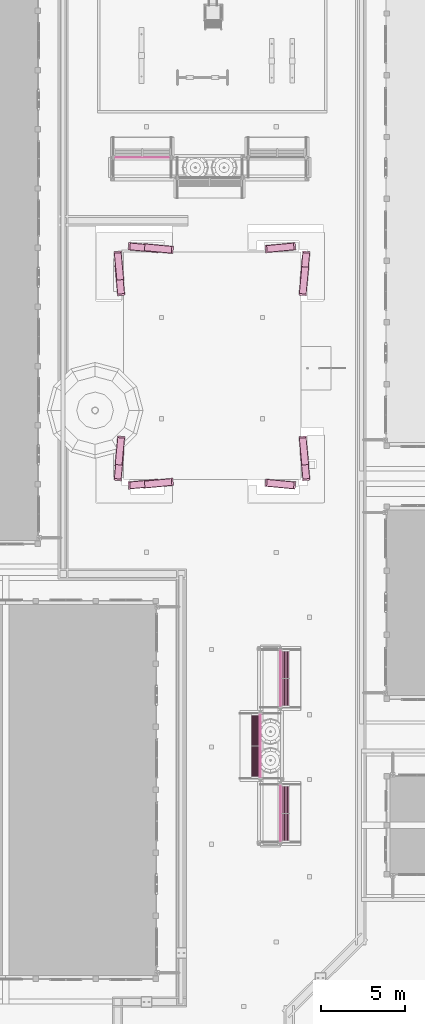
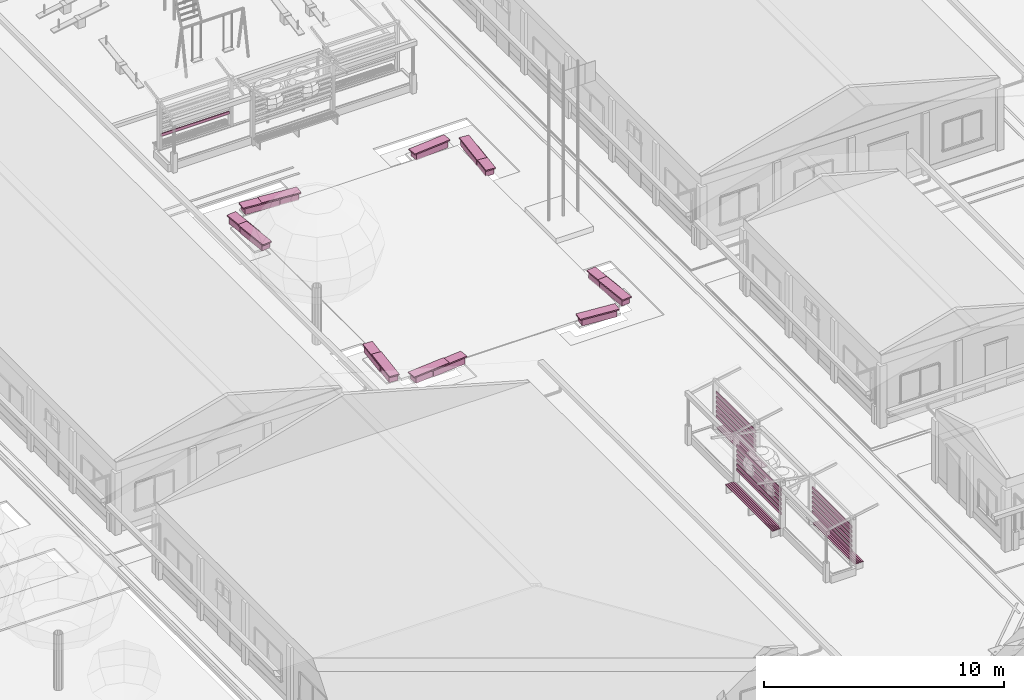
# One storey, part 143 of 177: 62 furnishings.
"""IFC4 building model written with IfcOpenShell, lengths in metres."""

from ifc_helpers import new_model, si_unit, origin, origin_with_axes, place, context, subcontext, project, spatial, triangles, element, save


model = new_model("IFC4")

# Units and contexts
model_context = context("Model", 3, precision=1e-05, world=origin_with_axes())
body_context = subcontext(model_context, "Body", "Model", "MODEL_VIEW")
ifc_project = project(units=[si_unit("LENGTHUNIT", "METRE"), si_unit("AREAUNIT", "SQUARE_METRE"), si_unit("VOLUMEUNIT", "CUBIC_METRE"), si_unit("PLANEANGLEUNIT", "RADIAN")], contexts=[model_context])

# Site, building, storey
site_placement = place(None, origin_with_axes())
site = spatial("IfcSite", under=ifc_project, at=site_placement, Name="Predio Los Mangos - Morales, San Martín", CompositionType="ELEMENT")
building_placement = place(site_placement, origin())
building = spatial("IfcBuilding", under=site, at=building_placement, Name="Hogar de Refugio Temporal", CompositionType="ELEMENT")
storey_placement = place(building_placement, origin())
storey = spatial("IfcBuildingStorey", under=building, at=storey_placement, Name="NIVEL 1 (NPT +0.00)", CompositionType="ELEMENT", Elevation=0.0)

# Furnishings
furnishing_1_placement = place(storey_placement, origin())
element("IfcFurnishingElement", 1, at=furnishing_1_placement, inside=storey, Name="banca_base", ObjectType="Mobiliario exterior / juegos", context=body_context, shape_type="Tessellation", body=[
    triangles([(29.1456, 69.3176, 0.07), (29.2962, 67.7247, 0.07), (29.6944, 67.7624, 0.07), (29.5438, 69.3553, 0.07), (29.1456, 69.3176, 0.37), (29.2962, 67.7247, 0.37), (29.6944, 67.7624, 0.37), (29.5438, 69.3553, 0.37)], [[1, 4, 3], [1, 3, 2], [5, 6, 7], [5, 7, 8], [1, 2, 6], [1, 6, 5], [2, 3, 7], [2, 7, 6], [3, 4, 8], [3, 8, 7], [4, 1, 5], [4, 5, 8]]),
])
furnishing_2_placement = place(storey_placement, origin())
element("IfcFurnishingElement", 2, at=furnishing_2_placement, inside=storey, Name="banca_asiento", ObjectType="Mobiliario exterior / juegos", context=body_context, shape_type="Tessellation", body=[
    triangles([(29.1113, 69.4148, 0.39), (29.2807, 67.6228, 0.39), (29.7287, 67.6652, 0.39), (29.5593, 69.4572, 0.39), (29.1113, 69.4148, 0.45), (29.2807, 67.6228, 0.45), (29.7287, 67.6652, 0.45), (29.5593, 69.4572, 0.45)], [[1, 4, 3], [1, 3, 2], [5, 6, 7], [5, 7, 8], [1, 2, 6], [1, 6, 5], [2, 3, 7], [2, 7, 6], [3, 4, 8], [3, 8, 7], [4, 1, 5], [4, 5, 8]]),
])
furnishing_3_placement = place(storey_placement, origin())
element("IfcFurnishingElement", 3, at=furnishing_3_placement, inside=storey, Name="banca_base", ObjectType="Mobiliario exterior / juegos", context=body_context, shape_type="Tessellation", body=[
    triangles([(31.6853, 69.7738, 0.07), (30.0924, 69.9244, 0.07), (30.0547, 69.5262, 0.07), (31.6476, 69.3756, 0.07), (31.6853, 69.7738, 0.37), (30.0924, 69.9244, 0.37), (30.0547, 69.5262, 0.37), (31.6476, 69.3756, 0.37)], [[1, 4, 3], [1, 3, 2], [5, 6, 7], [5, 7, 8], [1, 2, 6], [1, 6, 5], [2, 3, 7], [2, 7, 6], [3, 4, 8], [3, 8, 7], [4, 1, 5], [4, 5, 8]]),
])
furnishing_4_placement = place(storey_placement, origin())
element("IfcFurnishingElement", 4, at=furnishing_4_placement, inside=storey, Name="banca_asiento", ObjectType="Mobiliario exterior / juegos", context=body_context, shape_type="Tessellation", body=[
    triangles([(31.7872, 69.7893, 0.39), (29.9952, 69.9587, 0.39), (29.9528, 69.5107, 0.39), (31.7448, 69.3413, 0.39), (31.7872, 69.7893, 0.45), (29.9952, 69.9587, 0.45), (29.9528, 69.5107, 0.45), (31.7448, 69.3413, 0.45)], [[1, 4, 3], [1, 3, 2], [5, 6, 7], [5, 7, 8], [1, 2, 6], [1, 6, 5], [2, 3, 7], [2, 7, 6], [3, 4, 8], [3, 8, 7], [4, 1, 5], [4, 5, 8]]),
])
furnishing_5_placement = place(storey_placement, origin())
element("IfcFurnishingElement", 5, at=furnishing_5_placement, inside=storey, Name="banca_base", ObjectType="Mobiliario exterior / juegos", context=body_context, shape_type="Tessellation", body=[
    triangles([(40.5738, 67.7247, 0.07), (40.7244, 69.3176, 0.07), (40.3262, 69.3553, 0.07), (40.1756, 67.7624, 0.07), (40.5738, 67.7247, 0.37), (40.7244, 69.3176, 0.37), (40.3262, 69.3553, 0.37), (40.1756, 67.7624, 0.37)], [[1, 4, 3], [1, 3, 2], [5, 6, 7], [5, 7, 8], [1, 2, 6], [1, 6, 5], [2, 3, 7], [2, 7, 6], [3, 4, 8], [3, 8, 7], [4, 1, 5], [4, 5, 8]]),
])
furnishing_6_placement = place(storey_placement, origin())
element("IfcFurnishingElement", 6, at=furnishing_6_placement, inside=storey, Name="banca_asiento", ObjectType="Mobiliario exterior / juegos", context=body_context, shape_type="Tessellation", body=[
    triangles([(40.5893, 67.6228, 0.39), (40.7587, 69.4148, 0.39), (40.3107, 69.4572, 0.39), (40.1413, 67.6652, 0.39), (40.5893, 67.6228, 0.45), (40.7587, 69.4148, 0.45), (40.3107, 69.4572, 0.45), (40.1413, 67.6652, 0.45)], [[1, 4, 3], [1, 3, 2], [5, 6, 7], [5, 7, 8], [1, 2, 6], [1, 6, 5], [2, 3, 7], [2, 7, 6], [3, 4, 8], [3, 8, 7], [4, 1, 5], [4, 5, 8]]),
])
furnishing_7_placement = place(storey_placement, origin())
element("IfcFurnishingElement", 7, at=furnishing_7_placement, inside=storey, Name="banca_base", ObjectType="Mobiliario exterior / juegos", context=body_context, shape_type="Tessellation", body=[
    triangles([(39.7676, 69.9244, 0.07), (38.1747, 69.7738, 0.07), (38.2124, 69.3756, 0.07), (39.8053, 69.5262, 0.07), (39.7676, 69.9244, 0.37), (38.1747, 69.7738, 0.37), (38.2124, 69.3756, 0.37), (39.8053, 69.5262, 0.37)], [[1, 4, 3], [1, 3, 2], [5, 6, 7], [5, 7, 8], [1, 2, 6], [1, 6, 5], [2, 3, 7], [2, 7, 6], [3, 4, 8], [3, 8, 7], [4, 1, 5], [4, 5, 8]]),
])
furnishing_8_placement = place(storey_placement, origin())
element("IfcFurnishingElement", 8, at=furnishing_8_placement, inside=storey, Name="banca_asiento", ObjectType="Mobiliario exterior / juegos", context=body_context, shape_type="Tessellation", body=[
    triangles([(39.8648, 69.9587, 0.39), (38.0728, 69.7893, 0.39), (38.1152, 69.3413, 0.39), (39.9072, 69.5107, 0.39), (39.8648, 69.9587, 0.45), (38.0728, 69.7893, 0.45), (38.1152, 69.3413, 0.45), (39.9072, 69.5107, 0.45)], [[1, 4, 3], [1, 3, 2], [5, 6, 7], [5, 7, 8], [1, 2, 6], [1, 6, 5], [2, 3, 7], [2, 7, 6], [3, 4, 8], [3, 8, 7], [4, 1, 5], [4, 5, 8]]),
])
furnishing_9_placement = place(storey_placement, origin())
element("IfcFurnishingElement", 9, at=furnishing_9_placement, inside=storey, Name="banca_base", ObjectType="Mobiliario exterior / juegos", context=body_context, shape_type="Tessellation", body=[
    triangles([(29.2962, 57.5553, 0.07), (29.1456, 55.9624, 0.07), (29.5438, 55.9247, 0.07), (29.6944, 57.5176, 0.07), (29.2962, 57.5553, 0.37), (29.1456, 55.9624, 0.37), (29.5438, 55.9247, 0.37), (29.6944, 57.5176, 0.37)], [[1, 4, 3], [1, 3, 2], [5, 6, 7], [5, 7, 8], [1, 2, 6], [1, 6, 5], [2, 3, 7], [2, 7, 6], [3, 4, 8], [3, 8, 7], [4, 1, 5], [4, 5, 8]]),
])
furnishing_10_placement = place(storey_placement, origin())
element("IfcFurnishingElement", 10, at=furnishing_10_placement, inside=storey, Name="banca_asiento", ObjectType="Mobiliario exterior / juegos", context=body_context, shape_type="Tessellation", body=[
    triangles([(29.2807, 57.6572, 0.39), (29.1113, 55.8652, 0.39), (29.5593, 55.8228, 0.39), (29.7287, 57.6148, 0.39), (29.2807, 57.6572, 0.45), (29.1113, 55.8652, 0.45), (29.5593, 55.8228, 0.45), (29.7287, 57.6148, 0.45)], [[1, 4, 3], [1, 3, 2], [5, 6, 7], [5, 7, 8], [1, 2, 6], [1, 6, 5], [2, 3, 7], [2, 7, 6], [3, 4, 8], [3, 8, 7], [4, 1, 5], [4, 5, 8]]),
])
furnishing_11_placement = place(storey_placement, origin())
element("IfcFurnishingElement", 11, at=furnishing_11_placement, inside=storey, Name="banca_base", ObjectType="Mobiliario exterior / juegos", context=body_context, shape_type="Tessellation", body=[
    triangles([(30.0924, 55.3556, 0.07), (31.6853, 55.5062, 0.07), (31.6476, 55.9044, 0.07), (30.0547, 55.7538, 0.07), (30.0924, 55.3556, 0.37), (31.6853, 55.5062, 0.37), (31.6476, 55.9044, 0.37), (30.0547, 55.7538, 0.37)], [[1, 4, 3], [1, 3, 2], [5, 6, 7], [5, 7, 8], [1, 2, 6], [1, 6, 5], [2, 3, 7], [2, 7, 6], [3, 4, 8], [3, 8, 7], [4, 1, 5], [4, 5, 8]]),
])
furnishing_12_placement = place(storey_placement, origin())
element("IfcFurnishingElement", 12, at=furnishing_12_placement, inside=storey, Name="banca_asiento", ObjectType="Mobiliario exterior / juegos", context=body_context, shape_type="Tessellation", body=[
    triangles([(29.9952, 55.3213, 0.39), (31.7872, 55.4907, 0.39), (31.7448, 55.9387, 0.39), (29.9528, 55.7693, 0.39), (29.9952, 55.3213, 0.45), (31.7872, 55.4907, 0.45), (31.7448, 55.9387, 0.45), (29.9528, 55.7693, 0.45)], [[1, 4, 3], [1, 3, 2], [5, 6, 7], [5, 7, 8], [1, 2, 6], [1, 6, 5], [2, 3, 7], [2, 7, 6], [3, 4, 8], [3, 8, 7], [4, 1, 5], [4, 5, 8]]),
])
furnishing_13_placement = place(storey_placement, origin())
element("IfcFurnishingElement", 13, at=furnishing_13_placement, inside=storey, Name="banca_base", ObjectType="Mobiliario exterior / juegos", context=body_context, shape_type="Tessellation", body=[
    triangles([(40.7244, 55.9624, 0.07), (40.5738, 57.5553, 0.07), (40.1756, 57.5176, 0.07), (40.3262, 55.9247, 0.07), (40.7244, 55.9624, 0.37), (40.5738, 57.5553, 0.37), (40.1756, 57.5176, 0.37), (40.3262, 55.9247, 0.37)], [[1, 4, 3], [1, 3, 2], [5, 6, 7], [5, 7, 8], [1, 2, 6], [1, 6, 5], [2, 3, 7], [2, 7, 6], [3, 4, 8], [3, 8, 7], [4, 1, 5], [4, 5, 8]]),
])
furnishing_14_placement = place(storey_placement, origin())
element("IfcFurnishingElement", 14, at=furnishing_14_placement, inside=storey, Name="banca_asiento", ObjectType="Mobiliario exterior / juegos", context=body_context, shape_type="Tessellation", body=[
    triangles([(40.7587, 55.8652, 0.39), (40.5893, 57.6572, 0.39), (40.1413, 57.6148, 0.39), (40.3107, 55.8228, 0.39), (40.7587, 55.8652, 0.45), (40.5893, 57.6572, 0.45), (40.1413, 57.6148, 0.45), (40.3107, 55.8228, 0.45)], [[1, 4, 3], [1, 3, 2], [5, 6, 7], [5, 7, 8], [1, 2, 6], [1, 6, 5], [2, 3, 7], [2, 7, 6], [3, 4, 8], [3, 8, 7], [4, 1, 5], [4, 5, 8]]),
])
furnishing_15_placement = place(storey_placement, origin())
element("IfcFurnishingElement", 15, at=furnishing_15_placement, inside=storey, Name="banca_base", ObjectType="Mobiliario exterior / juegos", context=body_context, shape_type="Tessellation", body=[
    triangles([(38.1747, 55.5062, 0.07), (39.7676, 55.3556, 0.07), (39.8053, 55.7538, 0.07), (38.2124, 55.9044, 0.07), (38.1747, 55.5062, 0.37), (39.7676, 55.3556, 0.37), (39.8053, 55.7538, 0.37), (38.2124, 55.9044, 0.37)], [[1, 4, 3], [1, 3, 2], [5, 6, 7], [5, 7, 8], [1, 2, 6], [1, 6, 5], [2, 3, 7], [2, 7, 6], [3, 4, 8], [3, 8, 7], [4, 1, 5], [4, 5, 8]]),
])
furnishing_16_placement = place(storey_placement, origin())
element("IfcFurnishingElement", 16, at=furnishing_16_placement, inside=storey, Name="banca_asiento", ObjectType="Mobiliario exterior / juegos", context=body_context, shape_type="Tessellation", body=[
    triangles([(38.0728, 55.4907, 0.39), (39.8648, 55.3213, 0.39), (39.9072, 55.7693, 0.39), (38.1152, 55.9387, 0.39), (38.0728, 55.4907, 0.45), (39.8648, 55.3213, 0.45), (39.9072, 55.7693, 0.45), (38.1152, 55.9387, 0.45)], [[1, 4, 3], [1, 3, 2], [5, 6, 7], [5, 7, 8], [1, 2, 6], [1, 6, 5], [2, 3, 7], [2, 7, 6], [3, 4, 8], [3, 8, 7], [4, 1, 5], [4, 5, 8]]),
])
furnishing_17_placement = place(storey_placement, origin())
element("IfcFurnishingElement", 17, at=furnishing_17_placement, inside=storey, Name="banca_base", ObjectType="Mobiliario exterior / juegos", context=body_context, shape_type="Tessellation", body=[
    triangles([(29.1956, 68.4876, 0.07), (29.3462, 66.8947, 0.07), (29.7444, 66.9324, 0.07), (29.5938, 68.5253, 0.07), (29.1956, 68.4876, 0.37), (29.3462, 66.8947, 0.37), (29.7444, 66.9324, 0.37), (29.5938, 68.5253, 0.37)], [[1, 4, 3], [1, 3, 2], [5, 6, 7], [5, 7, 8], [1, 2, 6], [1, 6, 5], [2, 3, 7], [2, 7, 6], [3, 4, 8], [3, 8, 7], [4, 1, 5], [4, 5, 8]]),
])
furnishing_18_placement = place(storey_placement, origin())
element("IfcFurnishingElement", 18, at=furnishing_18_placement, inside=storey, Name="banca_asiento", ObjectType="Mobiliario exterior / juegos", context=body_context, shape_type="Tessellation", body=[
    triangles([(29.1613, 68.5848, 0.39), (29.3307, 66.7928, 0.39), (29.7787, 66.8352, 0.39), (29.6093, 68.6272, 0.39), (29.1613, 68.5848, 0.45), (29.3307, 66.7928, 0.45), (29.7787, 66.8352, 0.45), (29.6093, 68.6272, 0.45)], [[1, 4, 3], [1, 3, 2], [5, 6, 7], [5, 7, 8], [1, 2, 6], [1, 6, 5], [2, 3, 7], [2, 7, 6], [3, 4, 8], [3, 8, 7], [4, 1, 5], [4, 5, 8]]),
])
furnishing_19_placement = place(storey_placement, origin())
element("IfcFurnishingElement", 19, at=furnishing_19_placement, inside=storey, Name="banca_base", ObjectType="Mobiliario exterior / juegos", context=body_context, shape_type="Tessellation", body=[
    triangles([(32.5553, 69.7238, 0.07), (30.9624, 69.8744, 0.07), (30.9247, 69.4762, 0.07), (32.5176, 69.3256, 0.07), (32.5553, 69.7238, 0.37), (30.9624, 69.8744, 0.37), (30.9247, 69.4762, 0.37), (32.5176, 69.3256, 0.37)], [[1, 4, 3], [1, 3, 2], [5, 6, 7], [5, 7, 8], [1, 2, 6], [1, 6, 5], [2, 3, 7], [2, 7, 6], [3, 4, 8], [3, 8, 7], [4, 1, 5], [4, 5, 8]]),
])
furnishing_20_placement = place(storey_placement, origin())
element("IfcFurnishingElement", 20, at=furnishing_20_placement, inside=storey, Name="banca_asiento", ObjectType="Mobiliario exterior / juegos", context=body_context, shape_type="Tessellation", body=[
    triangles([(32.6572, 69.7393, 0.39), (30.8652, 69.9087, 0.39), (30.8228, 69.4607, 0.39), (32.6148, 69.2913, 0.39), (32.6572, 69.7393, 0.45), (30.8652, 69.9087, 0.45), (30.8228, 69.4607, 0.45), (32.6148, 69.2913, 0.45)], [[1, 4, 3], [1, 3, 2], [5, 6, 7], [5, 7, 8], [1, 2, 6], [1, 6, 5], [2, 3, 7], [2, 7, 6], [3, 4, 8], [3, 8, 7], [4, 1, 5], [4, 5, 8]]),
])
furnishing_21_placement = place(storey_placement, origin())
element("IfcFurnishingElement", 21, at=furnishing_21_placement, inside=storey, Name="banca_base", ObjectType="Mobiliario exterior / juegos", context=body_context, shape_type="Tessellation", body=[
    triangles([(40.5138, 66.8947, 0.07), (40.6644, 68.4876, 0.07), (40.2662, 68.5253, 0.07), (40.1156, 66.9324, 0.07), (40.5138, 66.8947, 0.37), (40.6644, 68.4876, 0.37), (40.2662, 68.5253, 0.37), (40.1156, 66.9324, 0.37)], [[1, 4, 3], [1, 3, 2], [5, 6, 7], [5, 7, 8], [1, 2, 6], [1, 6, 5], [2, 3, 7], [2, 7, 6], [3, 4, 8], [3, 8, 7], [4, 1, 5], [4, 5, 8]]),
])
furnishing_22_placement = place(storey_placement, origin())
element("IfcFurnishingElement", 22, at=furnishing_22_placement, inside=storey, Name="banca_asiento", ObjectType="Mobiliario exterior / juegos", context=body_context, shape_type="Tessellation", body=[
    triangles([(40.5293, 66.7928, 0.39), (40.6987, 68.5848, 0.39), (40.2507, 68.6272, 0.39), (40.0813, 66.8352, 0.39), (40.5293, 66.7928, 0.45), (40.6987, 68.5848, 0.45), (40.2507, 68.6272, 0.45), (40.0813, 66.8352, 0.45)], [[1, 4, 3], [1, 3, 2], [5, 6, 7], [5, 7, 8], [1, 2, 6], [1, 6, 5], [2, 3, 7], [2, 7, 6], [3, 4, 8], [3, 8, 7], [4, 1, 5], [4, 5, 8]]),
])
furnishing_23_placement = place(storey_placement, origin())
element("IfcFurnishingElement", 23, at=furnishing_23_placement, inside=storey, Name="banca_base", ObjectType="Mobiliario exterior / juegos", context=body_context, shape_type="Tessellation", body=[
    triangles([(29.3462, 58.3853, 0.07), (29.1956, 56.7924, 0.07), (29.5938, 56.7547, 0.07), (29.7444, 58.3476, 0.07), (29.3462, 58.3853, 0.37), (29.1956, 56.7924, 0.37), (29.5938, 56.7547, 0.37), (29.7444, 58.3476, 0.37)], [[1, 4, 3], [1, 3, 2], [5, 6, 7], [5, 7, 8], [1, 2, 6], [1, 6, 5], [2, 3, 7], [2, 7, 6], [3, 4, 8], [3, 8, 7], [4, 1, 5], [4, 5, 8]]),
])
furnishing_24_placement = place(storey_placement, origin())
element("IfcFurnishingElement", 24, at=furnishing_24_placement, inside=storey, Name="banca_asiento", ObjectType="Mobiliario exterior / juegos", context=body_context, shape_type="Tessellation", body=[
    triangles([(29.3307, 58.4872, 0.39), (29.1613, 56.6952, 0.39), (29.6093, 56.6528, 0.39), (29.7787, 58.4448, 0.39), (29.3307, 58.4872, 0.45), (29.1613, 56.6952, 0.45), (29.6093, 56.6528, 0.45), (29.7787, 58.4448, 0.45)], [[1, 4, 3], [1, 3, 2], [5, 6, 7], [5, 7, 8], [1, 2, 6], [1, 6, 5], [2, 3, 7], [2, 7, 6], [3, 4, 8], [3, 8, 7], [4, 1, 5], [4, 5, 8]]),
])
furnishing_25_placement = place(storey_placement, origin())
element("IfcFurnishingElement", 25, at=furnishing_25_placement, inside=storey, Name="banca_base", ObjectType="Mobiliario exterior / juegos", context=body_context, shape_type="Tessellation", body=[
    triangles([(30.9624, 55.4056, 0.07), (32.5553, 55.5562, 0.07), (32.5176, 55.9544, 0.07), (30.9247, 55.8038, 0.07), (30.9624, 55.4056, 0.37), (32.5553, 55.5562, 0.37), (32.5176, 55.9544, 0.37), (30.9247, 55.8038, 0.37)], [[1, 4, 3], [1, 3, 2], [5, 6, 7], [5, 7, 8], [1, 2, 6], [1, 6, 5], [2, 3, 7], [2, 7, 6], [3, 4, 8], [3, 8, 7], [4, 1, 5], [4, 5, 8]]),
])
furnishing_26_placement = place(storey_placement, origin())
element("IfcFurnishingElement", 26, at=furnishing_26_placement, inside=storey, Name="banca_asiento", ObjectType="Mobiliario exterior / juegos", context=body_context, shape_type="Tessellation", body=[
    triangles([(30.8652, 55.3713, 0.39), (32.6572, 55.5407, 0.39), (32.6148, 55.9887, 0.39), (30.8228, 55.8193, 0.39), (30.8652, 55.3713, 0.45), (32.6572, 55.5407, 0.45), (32.6148, 55.9887, 0.45), (30.8228, 55.8193, 0.45)], [[1, 4, 3], [1, 3, 2], [5, 6, 7], [5, 7, 8], [1, 2, 6], [1, 6, 5], [2, 3, 7], [2, 7, 6], [3, 4, 8], [3, 8, 7], [4, 1, 5], [4, 5, 8]]),
])
furnishing_27_placement = place(storey_placement, origin())
element("IfcFurnishingElement", 27, at=furnishing_27_placement, inside=storey, Name="banca_base", ObjectType="Mobiliario exterior / juegos", context=body_context, shape_type="Tessellation", body=[
    triangles([(40.6644, 56.7924, 0.07), (40.5138, 58.3853, 0.07), (40.1156, 58.3476, 0.07), (40.2662, 56.7547, 0.07), (40.6644, 56.7924, 0.37), (40.5138, 58.3853, 0.37), (40.1156, 58.3476, 0.37), (40.2662, 56.7547, 0.37)], [[1, 4, 3], [1, 3, 2], [5, 6, 7], [5, 7, 8], [1, 2, 6], [1, 6, 5], [2, 3, 7], [2, 7, 6], [3, 4, 8], [3, 8, 7], [4, 1, 5], [4, 5, 8]]),
])
furnishing_28_placement = place(storey_placement, origin())
element("IfcFurnishingElement", 28, at=furnishing_28_placement, inside=storey, Name="banca_asiento", ObjectType="Mobiliario exterior / juegos", context=body_context, shape_type="Tessellation", body=[
    triangles([(40.6987, 56.6952, 0.39), (40.5293, 58.4872, 0.39), (40.0813, 58.4448, 0.39), (40.2507, 56.6528, 0.39), (40.6987, 56.6952, 0.45), (40.5293, 58.4872, 0.45), (40.0813, 58.4448, 0.45), (40.2507, 56.6528, 0.45)], [[1, 4, 3], [1, 3, 2], [5, 6, 7], [5, 7, 8], [1, 2, 6], [1, 6, 5], [2, 3, 7], [2, 7, 6], [3, 4, 8], [3, 8, 7], [4, 1, 5], [4, 5, 8]]),
])
furnishing_29_placement = place(storey_placement, origin())
element("IfcFurnishingElement", 29, at=furnishing_29_placement, inside=storey, Name="oc01_celosia", ObjectType="Mobiliario exterior / juegos", context=body_context, shape_type="Tessellation", body=[
    triangles([(39.02, 34.455, 1.05), (39.02, 37.745, 1.05), (38.98, 37.745, 1.05), (38.98, 34.455, 1.05), (39.02, 34.455, 1.19), (39.02, 37.745, 1.19), (38.98, 37.745, 1.19), (38.98, 34.455, 1.19)], [[1, 4, 3], [1, 3, 2], [5, 6, 7], [5, 7, 8], [1, 2, 6], [1, 6, 5], [2, 3, 7], [2, 7, 6], [3, 4, 8], [3, 8, 7], [4, 1, 5], [4, 5, 8]]),
])
furnishing_30_placement = place(storey_placement, origin())
element("IfcFurnishingElement", 30, at=furnishing_30_placement, inside=storey, Name="oc01_celosia", ObjectType="Mobiliario exterior / juegos", context=body_context, shape_type="Tessellation", body=[
    triangles([(39.02, 34.455, 1.29), (39.02, 37.745, 1.29), (38.98, 37.745, 1.29), (38.98, 34.455, 1.29), (39.02, 34.455, 1.43), (39.02, 37.745, 1.43), (38.98, 37.745, 1.43), (38.98, 34.455, 1.43)], [[1, 4, 3], [1, 3, 2], [5, 6, 7], [5, 7, 8], [1, 2, 6], [1, 6, 5], [2, 3, 7], [2, 7, 6], [3, 4, 8], [3, 8, 7], [4, 1, 5], [4, 5, 8]]),
])
furnishing_31_placement = place(storey_placement, origin())
element("IfcFurnishingElement", 31, at=furnishing_31_placement, inside=storey, Name="oc01_celosia", ObjectType="Mobiliario exterior / juegos", context=body_context, shape_type="Tessellation", body=[
    triangles([(39.02, 34.455, 1.53), (39.02, 37.745, 1.53), (38.98, 37.745, 1.53), (38.98, 34.455, 1.53), (39.02, 34.455, 1.67), (39.02, 37.745, 1.67), (38.98, 37.745, 1.67), (38.98, 34.455, 1.67)], [[1, 4, 3], [1, 3, 2], [5, 6, 7], [5, 7, 8], [1, 2, 6], [1, 6, 5], [2, 3, 7], [2, 7, 6], [3, 4, 8], [3, 8, 7], [4, 1, 5], [4, 5, 8]]),
])
furnishing_32_placement = place(storey_placement, origin())
element("IfcFurnishingElement", 32, at=furnishing_32_placement, inside=storey, Name="oc01_celosia", ObjectType="Mobiliario exterior / juegos", context=body_context, shape_type="Tessellation", body=[
    triangles([(39.02, 34.455, 1.77), (39.02, 37.745, 1.77), (38.98, 37.745, 1.77), (38.98, 34.455, 1.77), (39.02, 34.455, 1.91), (39.02, 37.745, 1.91), (38.98, 37.745, 1.91), (38.98, 34.455, 1.91)], [[1, 4, 3], [1, 3, 2], [5, 6, 7], [5, 7, 8], [1, 2, 6], [1, 6, 5], [2, 3, 7], [2, 7, 6], [3, 4, 8], [3, 8, 7], [4, 1, 5], [4, 5, 8]]),
])
furnishing_33_placement = place(storey_placement, origin())
element("IfcFurnishingElement", 33, at=furnishing_33_placement, inside=storey, Name="oc01_celosia", ObjectType="Mobiliario exterior / juegos", context=body_context, shape_type="Tessellation", body=[
    triangles([(39.02, 34.455, 2.01), (39.02, 37.745, 2.01), (38.98, 37.745, 2.01), (38.98, 34.455, 2.01), (39.02, 34.455, 2.15), (39.02, 37.745, 2.15), (38.98, 37.745, 2.15), (38.98, 34.455, 2.15)], [[1, 4, 3], [1, 3, 2], [5, 6, 7], [5, 7, 8], [1, 2, 6], [1, 6, 5], [2, 3, 7], [2, 7, 6], [3, 4, 8], [3, 8, 7], [4, 1, 5], [4, 5, 8]]),
])
furnishing_34_placement = place(storey_placement, origin())
element("IfcFurnishingElement", 34, at=furnishing_34_placement, inside=storey, Name="oc01_celosia", ObjectType="Mobiliario exterior / juegos", context=body_context, shape_type="Tessellation", body=[
    triangles([(39.02, 34.455, 2.25), (39.02, 37.745, 2.25), (38.98, 37.745, 2.25), (38.98, 34.455, 2.25), (39.02, 34.455, 2.39), (39.02, 37.745, 2.39), (38.98, 37.745, 2.39), (38.98, 34.455, 2.39)], [[1, 4, 3], [1, 3, 2], [5, 6, 7], [5, 7, 8], [1, 2, 6], [1, 6, 5], [2, 3, 7], [2, 7, 6], [3, 4, 8], [3, 8, 7], [4, 1, 5], [4, 5, 8]]),
])
furnishing_35_placement = place(storey_placement, origin())
element("IfcFurnishingElement", 35, at=furnishing_35_placement, inside=storey, Name="oc01_asiento", ObjectType="Mobiliario exterior / juegos", context=body_context, shape_type="Tessellation", body=[
    triangles([(39.135, 34.355, 0.44), (39.135, 37.845, 0.44), (39.065, 37.845, 0.44), (39.065, 34.355, 0.44), (39.135, 34.355, 0.48), (39.135, 37.845, 0.48), (39.065, 37.845, 0.48), (39.065, 34.355, 0.48)], [[1, 4, 3], [1, 3, 2], [5, 6, 7], [5, 7, 8], [1, 2, 6], [1, 6, 5], [2, 3, 7], [2, 7, 6], [3, 4, 8], [3, 8, 7], [4, 1, 5], [4, 5, 8]]),
])
furnishing_36_placement = place(storey_placement, origin())
element("IfcFurnishingElement", 36, at=furnishing_36_placement, inside=storey, Name="oc01_asiento", ObjectType="Mobiliario exterior / juegos", context=body_context, shape_type="Tessellation", body=[
    triangles([(39.225, 34.355, 0.44), (39.225, 37.845, 0.44), (39.155, 37.845, 0.44), (39.155, 34.355, 0.44), (39.225, 34.355, 0.48), (39.225, 37.845, 0.48), (39.155, 37.845, 0.48), (39.155, 34.355, 0.48)], [[1, 4, 3], [1, 3, 2], [5, 6, 7], [5, 7, 8], [1, 2, 6], [1, 6, 5], [2, 3, 7], [2, 7, 6], [3, 4, 8], [3, 8, 7], [4, 1, 5], [4, 5, 8]]),
])
furnishing_37_placement = place(storey_placement, origin())
element("IfcFurnishingElement", 37, at=furnishing_37_placement, inside=storey, Name="oc01_asiento", ObjectType="Mobiliario exterior / juegos", context=body_context, shape_type="Tessellation", body=[
    triangles([(39.315, 34.355, 0.44), (39.315, 37.845, 0.44), (39.245, 37.845, 0.44), (39.245, 34.355, 0.44), (39.315, 34.355, 0.48), (39.315, 37.845, 0.48), (39.245, 37.845, 0.48), (39.245, 34.355, 0.48)], [[1, 4, 3], [1, 3, 2], [5, 6, 7], [5, 7, 8], [1, 2, 6], [1, 6, 5], [2, 3, 7], [2, 7, 6], [3, 4, 8], [3, 8, 7], [4, 1, 5], [4, 5, 8]]),
])
furnishing_38_placement = place(storey_placement, origin())
element("IfcFurnishingElement", 38, at=furnishing_38_placement, inside=storey, Name="oc01_asiento", ObjectType="Mobiliario exterior / juegos", context=body_context, shape_type="Tessellation", body=[
    triangles([(39.405, 34.355, 0.44), (39.405, 37.845, 0.44), (39.335, 37.845, 0.44), (39.335, 34.355, 0.44), (39.405, 34.355, 0.48), (39.405, 37.845, 0.48), (39.335, 37.845, 0.48), (39.335, 34.355, 0.48)], [[1, 4, 3], [1, 3, 2], [5, 6, 7], [5, 7, 8], [1, 2, 6], [1, 6, 5], [2, 3, 7], [2, 7, 6], [3, 4, 8], [3, 8, 7], [4, 1, 5], [4, 5, 8]]),
])
furnishing_39_placement = place(storey_placement, origin())
element("IfcFurnishingElement", 39, at=furnishing_39_placement, inside=storey, Name="oc01_asiento", ObjectType="Mobiliario exterior / juegos", context=body_context, shape_type="Tessellation", body=[
    triangles([(39.495, 34.355, 0.44), (39.495, 37.845, 0.44), (39.425, 37.845, 0.44), (39.425, 34.355, 0.44), (39.495, 34.355, 0.48), (39.495, 37.845, 0.48), (39.425, 37.845, 0.48), (39.425, 34.355, 0.48)], [[1, 4, 3], [1, 3, 2], [5, 6, 7], [5, 7, 8], [1, 2, 6], [1, 6, 5], [2, 3, 7], [2, 7, 6], [3, 4, 8], [3, 8, 7], [4, 1, 5], [4, 5, 8]]),
])
furnishing_40_placement = place(storey_placement, origin())
element("IfcFurnishingElement", 40, at=furnishing_40_placement, inside=storey, Name="oc01_celosia", ObjectType="Mobiliario exterior / juegos", context=body_context, shape_type="Tessellation", body=[
    triangles([(37.82, 38.245, 1.05), (37.82, 41.955, 1.05), (37.78, 41.955, 1.05), (37.78, 38.245, 1.05), (37.82, 38.245, 1.19), (37.82, 41.955, 1.19), (37.78, 41.955, 1.19), (37.78, 38.245, 1.19)], [[1, 4, 3], [1, 3, 2], [5, 6, 7], [5, 7, 8], [1, 2, 6], [1, 6, 5], [2, 3, 7], [2, 7, 6], [3, 4, 8], [3, 8, 7], [4, 1, 5], [4, 5, 8]]),
])
furnishing_41_placement = place(storey_placement, origin())
element("IfcFurnishingElement", 41, at=furnishing_41_placement, inside=storey, Name="oc01_celosia", ObjectType="Mobiliario exterior / juegos", context=body_context, shape_type="Tessellation", body=[
    triangles([(37.82, 38.245, 1.29), (37.82, 41.955, 1.29), (37.78, 41.955, 1.29), (37.78, 38.245, 1.29), (37.82, 38.245, 1.43), (37.82, 41.955, 1.43), (37.78, 41.955, 1.43), (37.78, 38.245, 1.43)], [[1, 4, 3], [1, 3, 2], [5, 6, 7], [5, 7, 8], [1, 2, 6], [1, 6, 5], [2, 3, 7], [2, 7, 6], [3, 4, 8], [3, 8, 7], [4, 1, 5], [4, 5, 8]]),
])
furnishing_42_placement = place(storey_placement, origin())
element("IfcFurnishingElement", 42, at=furnishing_42_placement, inside=storey, Name="oc01_celosia", ObjectType="Mobiliario exterior / juegos", context=body_context, shape_type="Tessellation", body=[
    triangles([(37.82, 38.245, 1.53), (37.82, 41.955, 1.53), (37.78, 41.955, 1.53), (37.78, 38.245, 1.53), (37.82, 38.245, 1.67), (37.82, 41.955, 1.67), (37.78, 41.955, 1.67), (37.78, 38.245, 1.67)], [[1, 4, 3], [1, 3, 2], [5, 6, 7], [5, 7, 8], [1, 2, 6], [1, 6, 5], [2, 3, 7], [2, 7, 6], [3, 4, 8], [3, 8, 7], [4, 1, 5], [4, 5, 8]]),
])
furnishing_43_placement = place(storey_placement, origin())
element("IfcFurnishingElement", 43, at=furnishing_43_placement, inside=storey, Name="oc01_celosia", ObjectType="Mobiliario exterior / juegos", context=body_context, shape_type="Tessellation", body=[
    triangles([(37.82, 38.245, 1.77), (37.82, 41.955, 1.77), (37.78, 41.955, 1.77), (37.78, 38.245, 1.77), (37.82, 38.245, 1.91), (37.82, 41.955, 1.91), (37.78, 41.955, 1.91), (37.78, 38.245, 1.91)], [[1, 4, 3], [1, 3, 2], [5, 6, 7], [5, 7, 8], [1, 2, 6], [1, 6, 5], [2, 3, 7], [2, 7, 6], [3, 4, 8], [3, 8, 7], [4, 1, 5], [4, 5, 8]]),
])
furnishing_44_placement = place(storey_placement, origin())
element("IfcFurnishingElement", 44, at=furnishing_44_placement, inside=storey, Name="oc01_celosia", ObjectType="Mobiliario exterior / juegos", context=body_context, shape_type="Tessellation", body=[
    triangles([(37.82, 38.245, 2.01), (37.82, 41.955, 2.01), (37.78, 41.955, 2.01), (37.78, 38.245, 2.01), (37.82, 38.245, 2.15), (37.82, 41.955, 2.15), (37.78, 41.955, 2.15), (37.78, 38.245, 2.15)], [[1, 4, 3], [1, 3, 2], [5, 6, 7], [5, 7, 8], [1, 2, 6], [1, 6, 5], [2, 3, 7], [2, 7, 6], [3, 4, 8], [3, 8, 7], [4, 1, 5], [4, 5, 8]]),
])
furnishing_45_placement = place(storey_placement, origin())
element("IfcFurnishingElement", 45, at=furnishing_45_placement, inside=storey, Name="oc01_celosia", ObjectType="Mobiliario exterior / juegos", context=body_context, shape_type="Tessellation", body=[
    triangles([(37.82, 38.245, 2.25), (37.82, 41.955, 2.25), (37.78, 41.955, 2.25), (37.78, 38.245, 2.25), (37.82, 38.245, 2.39), (37.82, 41.955, 2.39), (37.78, 41.955, 2.39), (37.78, 38.245, 2.39)], [[1, 4, 3], [1, 3, 2], [5, 6, 7], [5, 7, 8], [1, 2, 6], [1, 6, 5], [2, 3, 7], [2, 7, 6], [3, 4, 8], [3, 8, 7], [4, 1, 5], [4, 5, 8]]),
])
furnishing_46_placement = place(storey_placement, origin())
element("IfcFurnishingElement", 46, at=furnishing_46_placement, inside=storey, Name="oc01_asiento", ObjectType="Mobiliario exterior / juegos", context=body_context, shape_type="Tessellation", body=[
    triangles([(37.735, 38.145, 0.44), (37.735, 42.055, 0.44), (37.665, 42.055, 0.44), (37.665, 38.145, 0.44), (37.735, 38.145, 0.48), (37.735, 42.055, 0.48), (37.665, 42.055, 0.48), (37.665, 38.145, 0.48)], [[1, 4, 3], [1, 3, 2], [5, 6, 7], [5, 7, 8], [1, 2, 6], [1, 6, 5], [2, 3, 7], [2, 7, 6], [3, 4, 8], [3, 8, 7], [4, 1, 5], [4, 5, 8]]),
])
furnishing_47_placement = place(storey_placement, origin())
element("IfcFurnishingElement", 47, at=furnishing_47_placement, inside=storey, Name="oc01_asiento", ObjectType="Mobiliario exterior / juegos", context=body_context, shape_type="Tessellation", body=[
    triangles([(37.645, 38.145, 0.44), (37.645, 42.055, 0.44), (37.575, 42.055, 0.44), (37.575, 38.145, 0.44), (37.645, 38.145, 0.48), (37.645, 42.055, 0.48), (37.575, 42.055, 0.48), (37.575, 38.145, 0.48)], [[1, 4, 3], [1, 3, 2], [5, 6, 7], [5, 7, 8], [1, 2, 6], [1, 6, 5], [2, 3, 7], [2, 7, 6], [3, 4, 8], [3, 8, 7], [4, 1, 5], [4, 5, 8]]),
])
furnishing_48_placement = place(storey_placement, origin())
element("IfcFurnishingElement", 48, at=furnishing_48_placement, inside=storey, Name="oc01_asiento", ObjectType="Mobiliario exterior / juegos", context=body_context, shape_type="Tessellation", body=[
    triangles([(37.555, 38.145, 0.44), (37.555, 42.055, 0.44), (37.485, 42.055, 0.44), (37.485, 38.145, 0.44), (37.555, 38.145, 0.48), (37.555, 42.055, 0.48), (37.485, 42.055, 0.48), (37.485, 38.145, 0.48)], [[1, 4, 3], [1, 3, 2], [5, 6, 7], [5, 7, 8], [1, 2, 6], [1, 6, 5], [2, 3, 7], [2, 7, 6], [3, 4, 8], [3, 8, 7], [4, 1, 5], [4, 5, 8]]),
])
furnishing_49_placement = place(storey_placement, origin())
element("IfcFurnishingElement", 49, at=furnishing_49_placement, inside=storey, Name="oc01_asiento", ObjectType="Mobiliario exterior / juegos", context=body_context, shape_type="Tessellation", body=[
    triangles([(37.465, 38.145, 0.44), (37.465, 42.055, 0.44), (37.395, 42.055, 0.44), (37.395, 38.145, 0.44), (37.465, 38.145, 0.48), (37.465, 42.055, 0.48), (37.395, 42.055, 0.48), (37.395, 38.145, 0.48)], [[1, 4, 3], [1, 3, 2], [5, 6, 7], [5, 7, 8], [1, 2, 6], [1, 6, 5], [2, 3, 7], [2, 7, 6], [3, 4, 8], [3, 8, 7], [4, 1, 5], [4, 5, 8]]),
])
furnishing_50_placement = place(storey_placement, origin())
element("IfcFurnishingElement", 50, at=furnishing_50_placement, inside=storey, Name="oc01_asiento", ObjectType="Mobiliario exterior / juegos", context=body_context, shape_type="Tessellation", body=[
    triangles([(37.375, 38.145, 0.44), (37.375, 42.055, 0.44), (37.305, 42.055, 0.44), (37.305, 38.145, 0.44), (37.375, 38.145, 0.48), (37.375, 42.055, 0.48), (37.305, 42.055, 0.48), (37.305, 38.145, 0.48)], [[1, 4, 3], [1, 3, 2], [5, 6, 7], [5, 7, 8], [1, 2, 6], [1, 6, 5], [2, 3, 7], [2, 7, 6], [3, 4, 8], [3, 8, 7], [4, 1, 5], [4, 5, 8]]),
])
furnishing_51_placement = place(storey_placement, origin())
element("IfcFurnishingElement", 51, at=furnishing_51_placement, inside=storey, Name="oc01_celosia", ObjectType="Mobiliario exterior / juegos", context=body_context, shape_type="Tessellation", body=[
    triangles([(39.02, 42.455, 1.05), (39.02, 45.745, 1.05), (38.98, 45.745, 1.05), (38.98, 42.455, 1.05), (39.02, 42.455, 1.19), (39.02, 45.745, 1.19), (38.98, 45.745, 1.19), (38.98, 42.455, 1.19)], [[1, 4, 3], [1, 3, 2], [5, 6, 7], [5, 7, 8], [1, 2, 6], [1, 6, 5], [2, 3, 7], [2, 7, 6], [3, 4, 8], [3, 8, 7], [4, 1, 5], [4, 5, 8]]),
])
furnishing_52_placement = place(storey_placement, origin())
element("IfcFurnishingElement", 52, at=furnishing_52_placement, inside=storey, Name="oc01_celosia", ObjectType="Mobiliario exterior / juegos", context=body_context, shape_type="Tessellation", body=[
    triangles([(39.02, 42.455, 1.29), (39.02, 45.745, 1.29), (38.98, 45.745, 1.29), (38.98, 42.455, 1.29), (39.02, 42.455, 1.43), (39.02, 45.745, 1.43), (38.98, 45.745, 1.43), (38.98, 42.455, 1.43)], [[1, 4, 3], [1, 3, 2], [5, 6, 7], [5, 7, 8], [1, 2, 6], [1, 6, 5], [2, 3, 7], [2, 7, 6], [3, 4, 8], [3, 8, 7], [4, 1, 5], [4, 5, 8]]),
])
furnishing_53_placement = place(storey_placement, origin())
element("IfcFurnishingElement", 53, at=furnishing_53_placement, inside=storey, Name="oc01_celosia", ObjectType="Mobiliario exterior / juegos", context=body_context, shape_type="Tessellation", body=[
    triangles([(39.02, 42.455, 1.53), (39.02, 45.745, 1.53), (38.98, 45.745, 1.53), (38.98, 42.455, 1.53), (39.02, 42.455, 1.67), (39.02, 45.745, 1.67), (38.98, 45.745, 1.67), (38.98, 42.455, 1.67)], [[1, 4, 3], [1, 3, 2], [5, 6, 7], [5, 7, 8], [1, 2, 6], [1, 6, 5], [2, 3, 7], [2, 7, 6], [3, 4, 8], [3, 8, 7], [4, 1, 5], [4, 5, 8]]),
])
furnishing_54_placement = place(storey_placement, origin())
element("IfcFurnishingElement", 54, at=furnishing_54_placement, inside=storey, Name="oc01_celosia", ObjectType="Mobiliario exterior / juegos", context=body_context, shape_type="Tessellation", body=[
    triangles([(39.02, 42.455, 1.77), (39.02, 45.745, 1.77), (38.98, 45.745, 1.77), (38.98, 42.455, 1.77), (39.02, 42.455, 1.91), (39.02, 45.745, 1.91), (38.98, 45.745, 1.91), (38.98, 42.455, 1.91)], [[1, 4, 3], [1, 3, 2], [5, 6, 7], [5, 7, 8], [1, 2, 6], [1, 6, 5], [2, 3, 7], [2, 7, 6], [3, 4, 8], [3, 8, 7], [4, 1, 5], [4, 5, 8]]),
])
furnishing_55_placement = place(storey_placement, origin())
element("IfcFurnishingElement", 55, at=furnishing_55_placement, inside=storey, Name="oc01_celosia", ObjectType="Mobiliario exterior / juegos", context=body_context, shape_type="Tessellation", body=[
    triangles([(39.02, 42.455, 2.01), (39.02, 45.745, 2.01), (38.98, 45.745, 2.01), (38.98, 42.455, 2.01), (39.02, 42.455, 2.15), (39.02, 45.745, 2.15), (38.98, 45.745, 2.15), (38.98, 42.455, 2.15)], [[1, 4, 3], [1, 3, 2], [5, 6, 7], [5, 7, 8], [1, 2, 6], [1, 6, 5], [2, 3, 7], [2, 7, 6], [3, 4, 8], [3, 8, 7], [4, 1, 5], [4, 5, 8]]),
])
furnishing_56_placement = place(storey_placement, origin())
element("IfcFurnishingElement", 56, at=furnishing_56_placement, inside=storey, Name="oc01_celosia", ObjectType="Mobiliario exterior / juegos", context=body_context, shape_type="Tessellation", body=[
    triangles([(39.02, 42.455, 2.25), (39.02, 45.745, 2.25), (38.98, 45.745, 2.25), (38.98, 42.455, 2.25), (39.02, 42.455, 2.39), (39.02, 45.745, 2.39), (38.98, 45.745, 2.39), (38.98, 42.455, 2.39)], [[1, 4, 3], [1, 3, 2], [5, 6, 7], [5, 7, 8], [1, 2, 6], [1, 6, 5], [2, 3, 7], [2, 7, 6], [3, 4, 8], [3, 8, 7], [4, 1, 5], [4, 5, 8]]),
])
furnishing_57_placement = place(storey_placement, origin())
element("IfcFurnishingElement", 57, at=furnishing_57_placement, inside=storey, Name="oc01_asiento", ObjectType="Mobiliario exterior / juegos", context=body_context, shape_type="Tessellation", body=[
    triangles([(39.135, 42.355, 0.44), (39.135, 45.845, 0.44), (39.065, 45.845, 0.44), (39.065, 42.355, 0.44), (39.135, 42.355, 0.48), (39.135, 45.845, 0.48), (39.065, 45.845, 0.48), (39.065, 42.355, 0.48)], [[1, 4, 3], [1, 3, 2], [5, 6, 7], [5, 7, 8], [1, 2, 6], [1, 6, 5], [2, 3, 7], [2, 7, 6], [3, 4, 8], [3, 8, 7], [4, 1, 5], [4, 5, 8]]),
])
furnishing_58_placement = place(storey_placement, origin())
element("IfcFurnishingElement", 58, at=furnishing_58_placement, inside=storey, Name="oc01_asiento", ObjectType="Mobiliario exterior / juegos", context=body_context, shape_type="Tessellation", body=[
    triangles([(39.225, 42.355, 0.44), (39.225, 45.845, 0.44), (39.155, 45.845, 0.44), (39.155, 42.355, 0.44), (39.225, 42.355, 0.48), (39.225, 45.845, 0.48), (39.155, 45.845, 0.48), (39.155, 42.355, 0.48)], [[1, 4, 3], [1, 3, 2], [5, 6, 7], [5, 7, 8], [1, 2, 6], [1, 6, 5], [2, 3, 7], [2, 7, 6], [3, 4, 8], [3, 8, 7], [4, 1, 5], [4, 5, 8]]),
])
furnishing_59_placement = place(storey_placement, origin())
element("IfcFurnishingElement", 59, at=furnishing_59_placement, inside=storey, Name="oc01_asiento", ObjectType="Mobiliario exterior / juegos", context=body_context, shape_type="Tessellation", body=[
    triangles([(39.315, 42.355, 0.44), (39.315, 45.845, 0.44), (39.245, 45.845, 0.44), (39.245, 42.355, 0.44), (39.315, 42.355, 0.48), (39.315, 45.845, 0.48), (39.245, 45.845, 0.48), (39.245, 42.355, 0.48)], [[1, 4, 3], [1, 3, 2], [5, 6, 7], [5, 7, 8], [1, 2, 6], [1, 6, 5], [2, 3, 7], [2, 7, 6], [3, 4, 8], [3, 8, 7], [4, 1, 5], [4, 5, 8]]),
])
furnishing_60_placement = place(storey_placement, origin())
element("IfcFurnishingElement", 60, at=furnishing_60_placement, inside=storey, Name="oc01_asiento", ObjectType="Mobiliario exterior / juegos", context=body_context, shape_type="Tessellation", body=[
    triangles([(39.405, 42.355, 0.44), (39.405, 45.845, 0.44), (39.335, 45.845, 0.44), (39.335, 42.355, 0.44), (39.405, 42.355, 0.48), (39.405, 45.845, 0.48), (39.335, 45.845, 0.48), (39.335, 42.355, 0.48)], [[1, 4, 3], [1, 3, 2], [5, 6, 7], [5, 7, 8], [1, 2, 6], [1, 6, 5], [2, 3, 7], [2, 7, 6], [3, 4, 8], [3, 8, 7], [4, 1, 5], [4, 5, 8]]),
])
furnishing_61_placement = place(storey_placement, origin())
element("IfcFurnishingElement", 61, at=furnishing_61_placement, inside=storey, Name="oc01_asiento", ObjectType="Mobiliario exterior / juegos", context=body_context, shape_type="Tessellation", body=[
    triangles([(39.495, 42.355, 0.44), (39.495, 45.845, 0.44), (39.425, 45.845, 0.44), (39.425, 42.355, 0.44), (39.495, 42.355, 0.48), (39.495, 45.845, 0.48), (39.425, 45.845, 0.48), (39.425, 42.355, 0.48)], [[1, 4, 3], [1, 3, 2], [5, 6, 7], [5, 7, 8], [1, 2, 6], [1, 6, 5], [2, 3, 7], [2, 7, 6], [3, 4, 8], [3, 8, 7], [4, 1, 5], [4, 5, 8]]),
])
furnishing_62_placement = place(storey_placement, origin())
element("IfcFurnishingElement", 62, at=furnishing_62_placement, inside=storey, Name="oc01_celosia", ObjectType="Mobiliario exterior / juegos", context=body_context, shape_type="Tessellation", body=[
    triangles([(32.445, 75.02, 1.05), (29.155, 75.02, 1.05), (29.155, 74.98, 1.05), (32.445, 74.98, 1.05), (32.445, 75.02, 1.19), (29.155, 75.02, 1.19), (29.155, 74.98, 1.19), (32.445, 74.98, 1.19)], [[1, 4, 3], [1, 3, 2], [5, 6, 7], [5, 7, 8], [1, 2, 6], [1, 6, 5], [2, 3, 7], [2, 7, 6], [3, 4, 8], [3, 8, 7], [4, 1, 5], [4, 5, 8]]),
])

save(model, "model.ifc")
